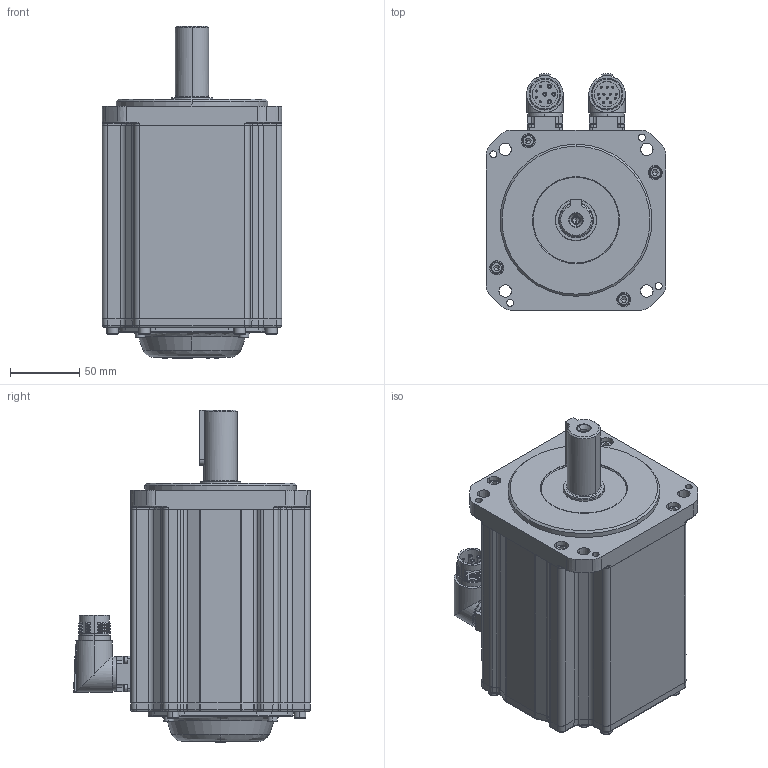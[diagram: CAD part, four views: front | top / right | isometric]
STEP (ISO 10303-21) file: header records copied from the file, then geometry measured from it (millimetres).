
FILE_DESCRIPTION (( 'STEP AP203' ), '1' );
FILE_NAME ('MC20-130-3M20-N152-1¡õPK-NNNN.STEP', '2025-05-04T14:08:04', ( '' ), ( '' ), 'SwSTEP 2.0', 'SolidWorks 2014', '' );
FILE_SCHEMA (( 'CONFIG_CONTROL_DESIGN' ));
Length unit declared in the file: millimetre
Products named in the file (1): MC20-130-3M20-N152-1¡õPK-NNNN
Bounding box: 130 x 171.35 x 240.3 mm (x, y, z)
Volume: 2665665.8 mm3; surface area: 279079.7 mm2
Topology: 28 solids, 28 shells, 2024 faces, 4803 edges, 2863 vertices
Faces by surface type: plane 735, cylinder 568, cone 357, bspline 204, torus 148, sphere 12
Entity records: 62226 total; most frequent: CARTESIAN_POINT 16865, DIRECTION 9530, ORIENTED_EDGE 9382, EDGE_CURVE 4691, AXIS2_PLACEMENT_3D 3694, VERTEX_POINT 2863, EDGE_LOOP 2270, VECTOR 2142
